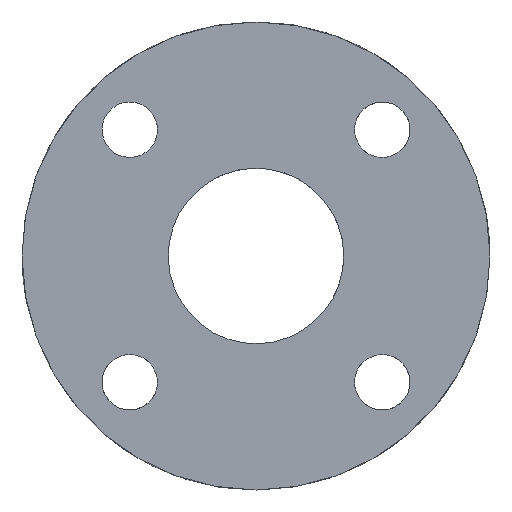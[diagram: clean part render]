
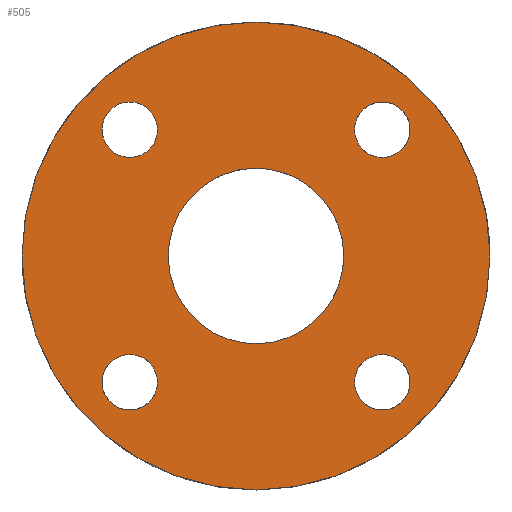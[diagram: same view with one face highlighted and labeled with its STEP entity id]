
A CAD part, left-side view. The second image highlights one B-rep face of the part: STEP entity #505.
In plain terms, the highlighted planar face has unit normal (-1, 0, 0).
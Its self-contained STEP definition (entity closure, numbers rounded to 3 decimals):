
#63=CARTESIAN_POINT('Vertex',(0.,16.557,18.349)) ;
#89=CARTESIAN_POINT('Vertex',(0.,24.455,22.664)) ;
#93=CARTESIAN_POINT('Control Point',(0.,16.557,18.349)) ;
#94=CARTESIAN_POINT('Control Point',(0.,16.896,17.728)) ;
#95=CARTESIAN_POINT('Control Point',(0.,17.357,17.175)) ;
#96=CARTESIAN_POINT('Control Point',(0.,17.922,16.719)) ;
#97=CARTESIAN_POINT('Control Point',(0.,19.2,16.055)) ;
#98=CARTESIAN_POINT('Control Point',(0.,20.635,15.923)) ;
#99=CARTESIAN_POINT('Control Point',(0.,21.356,16.001)) ;
#100=CARTESIAN_POINT('Control Point',(0.,22.73,16.435)) ;
#101=CARTESIAN_POINT('Control Point',(0.,23.838,17.357)) ;
#102=CARTESIAN_POINT('Control Point',(0.,24.293,17.922)) ;
#103=CARTESIAN_POINT('Control Point',(0.,24.957,19.2)) ;
#104=CARTESIAN_POINT('Control Point',(0.,25.089,20.635)) ;
#105=CARTESIAN_POINT('Control Point',(0.,25.011,21.356)) ;
#106=CARTESIAN_POINT('Control Point',(0.,24.794,22.043)) ;
#107=CARTESIAN_POINT('Control Point',(0.,24.455,22.664)) ;
#126=CARTESIAN_POINT('Axis2P3D Location',(0.,20.506,20.506)) ;
#406=CARTESIAN_POINT('Axis2P3D Location',(0.,0.,0.)) ;
#411=CARTESIAN_POINT('Axis2P3D Location',(0.,0.,0.)) ;
#415=CARTESIAN_POINT('Vertex',(0.,-38.,0.)) ;
#417=CARTESIAN_POINT('Vertex',(0.,38.,0.)) ;
#420=CARTESIAN_POINT('Axis2P3D Location',(0.,0.,0.)) ;
#433=CARTESIAN_POINT('Axis2P3D Location',(0.,0.,0.)) ;
#437=CARTESIAN_POINT('Vertex',(0.,-12.506,-6.832)) ;
#439=CARTESIAN_POINT('Vertex',(0.,12.506,6.832)) ;
#442=CARTESIAN_POINT('Axis2P3D Location',(0.,0.,0.)) ;
#451=CARTESIAN_POINT('Axis2P3D Location',(0.,-20.506,20.506)) ;
#455=CARTESIAN_POINT('Vertex',(0.,-22.664,24.455)) ;
#457=CARTESIAN_POINT('Vertex',(0.,-18.349,16.557)) ;
#460=CARTESIAN_POINT('Axis2P3D Location',(0.,-20.506,20.506)) ;
#469=CARTESIAN_POINT('Axis2P3D Location',(0.,-20.506,-20.506)) ;
#473=CARTESIAN_POINT('Vertex',(0.,-24.455,-22.664)) ;
#475=CARTESIAN_POINT('Vertex',(0.,-16.557,-18.349)) ;
#478=CARTESIAN_POINT('Axis2P3D Location',(0.,-20.506,-20.506)) ;
#487=CARTESIAN_POINT('Axis2P3D Location',(0.,20.506,-20.506)) ;
#491=CARTESIAN_POINT('Vertex',(0.,22.664,-24.455)) ;
#493=CARTESIAN_POINT('Vertex',(0.,18.349,-16.557)) ;
#496=CARTESIAN_POINT('Axis2P3D Location',(0.,20.506,-20.506)) ;
#127=DIRECTION('Axis2P3D Direction',(1.,0.,-0.)) ;
#407=DIRECTION('Axis2P3D Direction',(1.,0.,0.)) ;
#408=DIRECTION('Axis2P3D XDirection',(0.,1.,0.)) ;
#412=DIRECTION('Axis2P3D Direction',(1.,0.,0.)) ;
#421=DIRECTION('Axis2P3D Direction',(1.,0.,0.)) ;
#434=DIRECTION('Axis2P3D Direction',(1.,0.,0.)) ;
#443=DIRECTION('Axis2P3D Direction',(1.,0.,0.)) ;
#452=DIRECTION('Axis2P3D Direction',(1.,0.,0.)) ;
#461=DIRECTION('Axis2P3D Direction',(1.,0.,0.)) ;
#470=DIRECTION('Axis2P3D Direction',(1.,0.,0.)) ;
#479=DIRECTION('Axis2P3D Direction',(1.,0.,0.)) ;
#488=DIRECTION('Axis2P3D Direction',(1.,0.,0.)) ;
#497=DIRECTION('Axis2P3D Direction',(1.,0.,0.)) ;
#128=AXIS2_PLACEMENT_3D('Circle Axis2P3D',#126,#127,$) ;
#409=AXIS2_PLACEMENT_3D('Plane Axis2P3D',#406,#407,#408) ;
#413=AXIS2_PLACEMENT_3D('Circle Axis2P3D',#411,#412,$) ;
#422=AXIS2_PLACEMENT_3D('Circle Axis2P3D',#420,#421,$) ;
#435=AXIS2_PLACEMENT_3D('Circle Axis2P3D',#433,#434,$) ;
#444=AXIS2_PLACEMENT_3D('Circle Axis2P3D',#442,#443,$) ;
#453=AXIS2_PLACEMENT_3D('Circle Axis2P3D',#451,#452,$) ;
#462=AXIS2_PLACEMENT_3D('Circle Axis2P3D',#460,#461,$) ;
#471=AXIS2_PLACEMENT_3D('Circle Axis2P3D',#469,#470,$) ;
#480=AXIS2_PLACEMENT_3D('Circle Axis2P3D',#478,#479,$) ;
#489=AXIS2_PLACEMENT_3D('Circle Axis2P3D',#487,#488,$) ;
#498=AXIS2_PLACEMENT_3D('Circle Axis2P3D',#496,#497,$) ;
#426=ORIENTED_EDGE('',*,*,#419,.F.) ;
#427=ORIENTED_EDGE('',*,*,#424,.F.) ;
#430=ORIENTED_EDGE('',*,*,#108,.T.) ;
#431=ORIENTED_EDGE('',*,*,#130,.T.) ;
#448=ORIENTED_EDGE('',*,*,#441,.T.) ;
#449=ORIENTED_EDGE('',*,*,#446,.T.) ;
#466=ORIENTED_EDGE('',*,*,#459,.T.) ;
#467=ORIENTED_EDGE('',*,*,#464,.T.) ;
#484=ORIENTED_EDGE('',*,*,#477,.T.) ;
#485=ORIENTED_EDGE('',*,*,#482,.T.) ;
#502=ORIENTED_EDGE('',*,*,#495,.T.) ;
#503=ORIENTED_EDGE('',*,*,#500,.T.) ;
#432=FACE_BOUND('',#429,.T.) ;
#450=FACE_BOUND('',#447,.T.) ;
#468=FACE_BOUND('',#465,.T.) ;
#486=FACE_BOUND('',#483,.T.) ;
#504=FACE_BOUND('',#501,.T.) ;
#505=ADVANCED_FACE('TTM28',(#428,#432,#450,#468,#486,#504),#410,.F.) ;
#92=B_SPLINE_CURVE_WITH_KNOTS('',5,(#93,#94,#95,#96,#97,#98,#99,#100,#101,#102,#103,#104,#105,#106,#107),.UNSPECIFIED.,.F.,.U.,(6,3,3,3,6),(-7.069,-3.534,0.,3.534,7.069),.UNSPECIFIED.) ;
#129=CIRCLE('generated circle',#128,4.5) ;
#414=CIRCLE('generated circle',#413,38.) ;
#423=CIRCLE('generated circle',#422,38.) ;
#436=CIRCLE('generated circle',#435,14.25) ;
#445=CIRCLE('generated circle',#444,14.25) ;
#454=CIRCLE('generated circle',#453,4.5) ;
#463=CIRCLE('generated circle',#462,4.5) ;
#472=CIRCLE('generated circle',#471,4.5) ;
#481=CIRCLE('generated circle',#480,4.5) ;
#490=CIRCLE('generated circle',#489,4.5) ;
#499=CIRCLE('generated circle',#498,4.5) ;
#108=EDGE_CURVE('',#64,#90,#92,.T.) ;
#130=EDGE_CURVE('',#90,#64,#129,.T.) ;
#419=EDGE_CURVE('',#416,#418,#414,.T.) ;
#424=EDGE_CURVE('',#418,#416,#423,.T.) ;
#441=EDGE_CURVE('',#438,#440,#436,.T.) ;
#446=EDGE_CURVE('',#440,#438,#445,.T.) ;
#459=EDGE_CURVE('',#456,#458,#454,.T.) ;
#464=EDGE_CURVE('',#458,#456,#463,.T.) ;
#477=EDGE_CURVE('',#474,#476,#472,.T.) ;
#482=EDGE_CURVE('',#476,#474,#481,.T.) ;
#495=EDGE_CURVE('',#492,#494,#490,.T.) ;
#500=EDGE_CURVE('',#494,#492,#499,.T.) ;
#425=EDGE_LOOP('',(#426,#427)) ;
#429=EDGE_LOOP('',(#430,#431)) ;
#447=EDGE_LOOP('',(#448,#449)) ;
#465=EDGE_LOOP('',(#466,#467)) ;
#483=EDGE_LOOP('',(#484,#485)) ;
#501=EDGE_LOOP('',(#502,#503)) ;
#428=FACE_OUTER_BOUND('',#425,.T.) ;
#410=PLANE('',#409) ;
#64=VERTEX_POINT('',#63) ;
#90=VERTEX_POINT('',#89) ;
#416=VERTEX_POINT('',#415) ;
#418=VERTEX_POINT('',#417) ;
#438=VERTEX_POINT('',#437) ;
#440=VERTEX_POINT('',#439) ;
#456=VERTEX_POINT('',#455) ;
#458=VERTEX_POINT('',#457) ;
#474=VERTEX_POINT('',#473) ;
#476=VERTEX_POINT('',#475) ;
#492=VERTEX_POINT('',#491) ;
#494=VERTEX_POINT('',#493) ;
